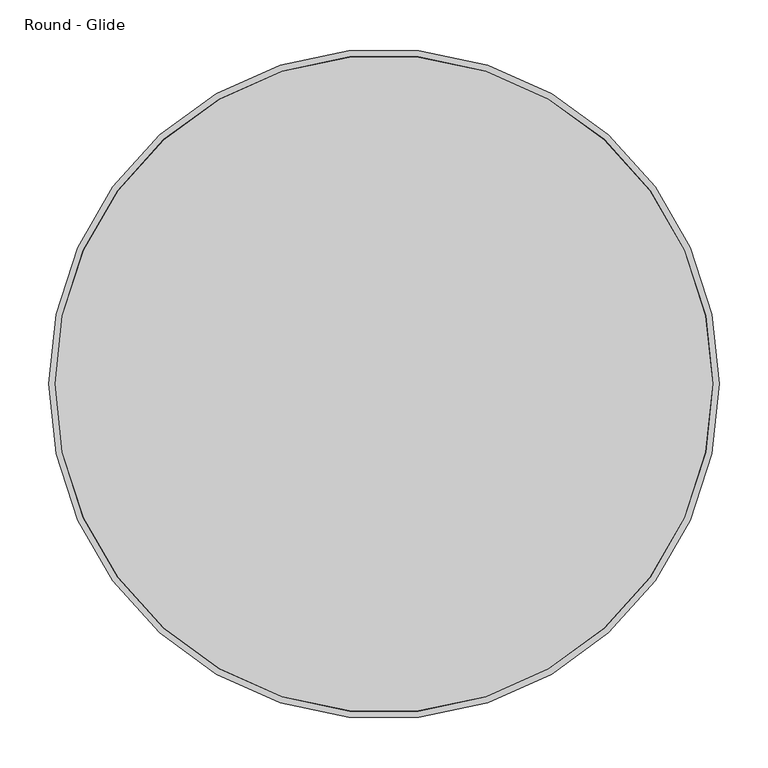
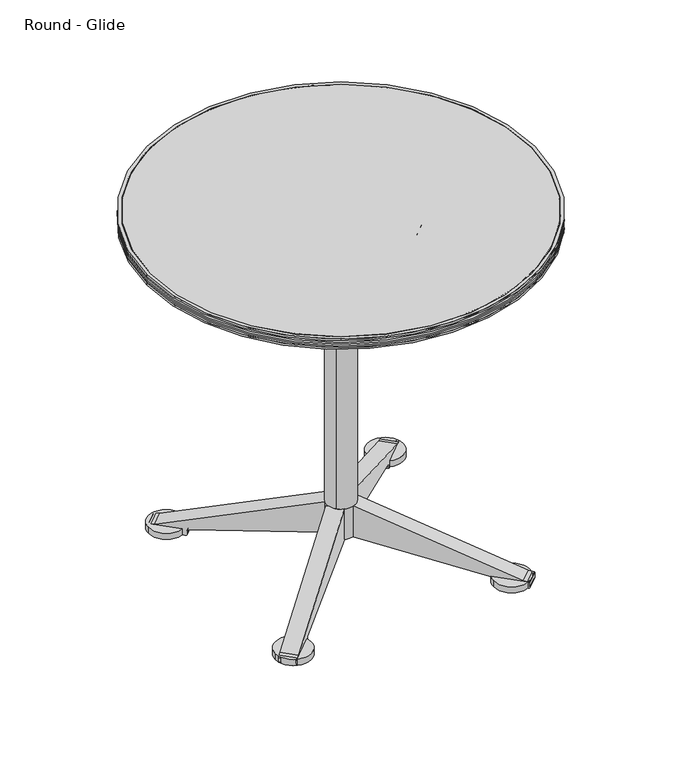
"""IFC4 building model written with IfcOpenShell, lengths in millimetres: furniture geometry, Coalesse_AM_Table_Conference_Ballet_Side : Round - Glide."""

from ifc_helpers import new_model, si_unit, point, frame, frame_2d, origin, origin_with_axes, origin_2d, place, context, project, spatial, polyline, circle_curve, trimmed, segment, composite_curve, outline, extrude, source, transform, mapped, element, save
from ifc_brep_helpers import plane_surface, cylinder_surface, revolved_surface, advanced_brep


def round_glide_2c95bece(model_context):
    return source(origin(), model_context, "Body", "SolidModel", [
        extrude(outline(composite_curve([segment(polyline([(-37.2834365, 26.9246599), (-26.8661847, 37.3419116)]), True, "CONTINUOUS"), segment(trimmed(circle_curve(frame_2d((0.0745836, 10.4011432)), 38.1), [point((-26.8661847, 37.3419116))], [point((27.015352, 37.3419116))], False, "CARTESIAN"), True, "CONTINUOUS"), segment(polyline([(27.015352, 37.3419116), (38.9313594, 25.4259042)]), True, "CONTINUOUS"), segment(trimmed(circle_curve(frame_2d((13.4893466, -0.0161085)), 35.9804395), [point((38.9313594, 25.4259042))], [point((38.9313594, -25.4581212))], False, "CARTESIAN"), True, "CONTINUOUS"), segment(polyline([(38.9313594, -25.4581212), (27.015352, -37.3741286)]), True, "CONTINUOUS"), segment(trimmed(circle_curve(frame_2d((0.0745836, -10.4333602)), 38.1), [point((27.015352, -37.3741286))], [point((-26.8661847, -37.3741286))], False, "CARTESIAN"), True, "CONTINUOUS"), segment(polyline([(-26.8661847, -37.3741286), (-37.2834365, -26.9568769)]), True, "CONTINUOUS"), segment(trimmed(circle_curve(frame_2d((-10.3426681, -0.0161085)), 38.1), [point((-37.2834365, -26.9568769))], [point((-37.2834365, 26.9246599))], False, "CARTESIAN"), True, "CONTINUOUS")], self_intersect=False)), frame((0.0, 0.0, 536.3169247), z_axis=(0.0, 0.0, 1.0), x_axis=(1.0, 0.0, 0.0)), (0.0, 0.0, 1.0), 50.3081696),
        extrude(outline(composite_curve([segment(polyline([(-81.1409418, 49.3084633), (-49.5692956, 80.8801095)]), True, "CONTINUOUS"), segment(trimmed(circle_curve(frame_2d((0.0, 156.1108358)), 90.0931587), [point((-49.5692956, 80.8801095))], [point((49.871233, 81.0799264))], True, "CARTESIAN"), True, "CONTINUOUS"), segment(polyline([(49.871233, 81.0799264), (81.1309866, 49.8201728)]), True, "CONTINUOUS"), segment(trimmed(circle_curve(frame_2d((153.3620811, 0.0)), 87.7461145), [point((81.1309866, 49.8201728))], [point((81.7629451, -50.7241989))], True, "CARTESIAN"), True, "CONTINUOUS"), segment(polyline([(81.7629451, -50.7241989), (50.5881651, -81.8989789)]), True, "CONTINUOUS"), segment(trimmed(circle_curve(frame_2d((0.0, -154.7295322)), 88.6761069), [point((50.5881651, -81.8989789))], [point((-51.0893198, -82.2496499))], True, "CARTESIAN"), True, "CONTINUOUS"), segment(polyline([(-51.0893198, -82.2496499), (-82.3248918, -51.014078)]), True, "CONTINUOUS"), segment(trimmed(circle_curve(frame_2d((-153.9959305, 0.0)), 87.9725749), [point((-82.3248918, -51.014078))], [point((-81.1409418, 49.3084633))], True, "CARTESIAN"), True, "CONTINUOUS")], self_intersect=False)), frame((0.0, 0.0, 563.948073), z_axis=(0.0, 0.0, 1.0), x_axis=(1.0, 0.0, 0.0)), (0.0, 0.0, 1.0), 22.6770213),
        extrude(outline(composite_curve([segment(polyline([(114.3, 0.0), (115.2263736, -5.2537258)]), True, "CONTINUOUS"), segment(trimmed(circle_curve(frame_2d((109.4080133, -6.2796597)), 5.9081179), [point((115.2263736, -5.2537258))], [point((112.3666622, -11.3935872))], False, "CARTESIAN"), True, "CONTINUOUS"), segment(trimmed(circle_curve(frame_2d((-123.1481635, 395.6860679)), 470.2989248), [point((112.3666622, -11.3935872))], [point((-41.1216208, -67.404339))], False, "CARTESIAN"), True, "CONTINUOUS"), segment(trimmed(circle_curve(frame_2d((-123.1481635, 395.6860679)), 470.2989248), [point((-41.1216208, -67.404339))], [point((-66.3652264, -71.172344))], False, "CARTESIAN"), True, "CONTINUOUS"), segment(trimmed(circle_curve(frame_2d((-64.5887584, -85.7781231)), 14.7134164), [point((-66.3652264, -71.172344))], [point((-76.9601862, -77.8136775))], True, "CARTESIAN"), True, "CONTINUOUS"), segment(trimmed(circle_curve(frame_2d((-64.5887584, -85.7781231)), 14.7134164), [point((-76.9601862, -77.8136775))], [point((-79.0764227, -88.3456516))], True, "CARTESIAN"), True, "CONTINUOUS"), segment(trimmed(circle_curve(frame_2d((-82.4829244, -88.9493576)), 3.4595829), [point((-79.0764227, -88.3456516))], [point((-81.6450497, -92.3059452))], False, "CARTESIAN"), True, "CONTINUOUS"), segment(polyline([(-81.6450497, -92.3059452), (-160.9573766, -92.3059452)]), True, "CONTINUOUS"), segment(trimmed(circle_curve(frame_2d((-160.119502, -88.9493576)), 3.4595829), [point((-160.9573766, -92.3059452))], [point((-163.5260036, -88.3456516))], False, "CARTESIAN"), True, "CONTINUOUS"), segment(trimmed(circle_curve(frame_2d((-178.0136679, -85.7781231)), 14.7134164), [point((-163.5260036, -88.3456516))], [point((-165.6422401, -77.8136775))], True, "CARTESIAN"), True, "CONTINUOUS"), segment(trimmed(circle_curve(frame_2d((-178.0136679, -85.7781231)), 14.7134164), [point((-165.6422401, -77.8136775))], [point((-176.2372, -71.172344))], True, "CARTESIAN"), True, "CONTINUOUS"), segment(trimmed(circle_curve(frame_2d((-119.4542628, 395.6860679)), 470.2989248), [point((-176.2372, -71.172344))], [point((-201.4808056, -67.404339))], False, "CARTESIAN"), True, "CONTINUOUS"), segment(trimmed(circle_curve(frame_2d((-119.4542628, 395.6860679)), 470.2989248), [point((-201.4808056, -67.404339))], [point((-354.9690885, -11.3935872))], False, "CARTESIAN"), True, "CONTINUOUS"), segment(trimmed(circle_curve(frame_2d((-352.0104397, -6.2796597)), 5.9081179), [point((-354.9690885, -11.3935872))], [point((-357.8288, -5.2537258))], False, "CARTESIAN"), True, "CONTINUOUS"), segment(polyline([(-357.8288, -5.2537258), (-356.9024264, 0.0), (-242.6024263, 0.0)]), True, "CONTINUOUS"), segment(trimmed(circle_curve(frame_2d((-184.587638, 17.529313)), 60.6052183), [point((-242.6024263, 0.0))], [point((-195.8254097, -42.0249058))], True, "CARTESIAN"), True, "CONTINUOUS"), segment(trimmed(circle_curve(frame_2d((-133.7603939, 286.8867003)), 334.7161645), [point((-195.8254097, -42.0249058))], [point((-152.4418907, -47.3077229))], True, "CARTESIAN"), True, "CONTINUOUS"), segment(trimmed(circle_curve(frame_2d((-151.7916573, -35.6756582)), 11.6502245), [point((-152.4418907, -47.3077229))], [point((-142.023608, -42.0249058))], True, "CARTESIAN"), True, "CONTINUOUS"), segment(polyline([(-142.023608, -42.0249058), (-100.5788184, -42.0249058)]), True, "CONTINUOUS"), segment(trimmed(circle_curve(frame_2d((-90.810769, -35.6756582)), 11.6502245), [point((-100.5788184, -42.0249058))], [point((-90.1605356, -47.3077229))], True, "CARTESIAN"), True, "CONTINUOUS"), segment(trimmed(circle_curve(frame_2d((-108.8420324, 286.8867003)), 334.7161645), [point((-90.1605356, -47.3077229))], [point((-46.7770167, -42.0249058))], True, "CARTESIAN"), True, "CONTINUOUS"), segment(trimmed(circle_curve(frame_2d((-58.0147883, 17.529313)), 60.6052183), [point((-46.7770167, -42.0249058))], [point((0.0, 0.0))], True, "CARTESIAN"), True, "CONTINUOUS"), segment(polyline([(0.0, 0.0), (114.3, 0.0)]), True, "CONTINUOUS")], self_intersect=False)), frame((-101.4283173, 70.1175035, 628.65), z_axis=(0.7071067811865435, 0.7071067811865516, 0.0), x_axis=(-0.7071067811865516, 0.7071067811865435, 0.0)), (0.0, 0.0, 1.0), 44.2801776),
        extrude(outline(composite_curve([segment(polyline([(114.3, 0.0), (115.2263736, -5.2537258)]), True, "CONTINUOUS"), segment(trimmed(circle_curve(frame_2d((109.4080133, -6.2796597)), 5.9081179), [point((115.2263736, -5.2537258))], [point((112.3666622, -11.3935872))], False, "CARTESIAN"), True, "CONTINUOUS"), segment(trimmed(circle_curve(frame_2d((-123.1481635, 395.6860679)), 470.2989248), [point((112.3666622, -11.3935872))], [point((-41.1216208, -67.404339))], False, "CARTESIAN"), True, "CONTINUOUS"), segment(trimmed(circle_curve(frame_2d((-123.1481635, 395.6860679)), 470.2989248), [point((-41.1216208, -67.404339))], [point((-66.3652264, -71.172344))], False, "CARTESIAN"), True, "CONTINUOUS"), segment(trimmed(circle_curve(frame_2d((-64.5887584, -85.7781231)), 14.7134164), [point((-66.3652264, -71.172344))], [point((-76.9601862, -77.8136775))], True, "CARTESIAN"), True, "CONTINUOUS"), segment(trimmed(circle_curve(frame_2d((-64.5887584, -85.7781231)), 14.7134164), [point((-76.9601862, -77.8136775))], [point((-79.0764227, -88.3456516))], True, "CARTESIAN"), True, "CONTINUOUS"), segment(trimmed(circle_curve(frame_2d((-82.4829244, -88.9493576)), 3.4595829), [point((-79.0764227, -88.3456516))], [point((-81.6450497, -92.3059452))], False, "CARTESIAN"), True, "CONTINUOUS"), segment(polyline([(-81.6450497, -92.3059452), (-160.9573766, -92.3059452)]), True, "CONTINUOUS"), segment(trimmed(circle_curve(frame_2d((-160.119502, -88.9493576)), 3.4595829), [point((-160.9573766, -92.3059452))], [point((-163.5260036, -88.3456516))], False, "CARTESIAN"), True, "CONTINUOUS"), segment(trimmed(circle_curve(frame_2d((-178.0136679, -85.7781231)), 14.7134164), [point((-163.5260036, -88.3456516))], [point((-165.6422401, -77.8136775))], True, "CARTESIAN"), True, "CONTINUOUS"), segment(trimmed(circle_curve(frame_2d((-178.0136679, -85.7781231)), 14.7134164), [point((-165.6422401, -77.8136775))], [point((-176.2372, -71.172344))], True, "CARTESIAN"), True, "CONTINUOUS"), segment(trimmed(circle_curve(frame_2d((-119.4542628, 395.6860679)), 470.2989248), [point((-176.2372, -71.172344))], [point((-201.4808056, -67.404339))], False, "CARTESIAN"), True, "CONTINUOUS"), segment(trimmed(circle_curve(frame_2d((-119.4542628, 395.6860679)), 470.2989248), [point((-201.4808056, -67.404339))], [point((-354.9690885, -11.3935872))], False, "CARTESIAN"), True, "CONTINUOUS"), segment(trimmed(circle_curve(frame_2d((-352.0104397, -6.2796597)), 5.9081179), [point((-354.9690885, -11.3935872))], [point((-357.8288, -5.2537258))], False, "CARTESIAN"), True, "CONTINUOUS"), segment(polyline([(-357.8288, -5.2537258), (-356.9024264, 0.0), (-242.6024263, 0.0)]), True, "CONTINUOUS"), segment(trimmed(circle_curve(frame_2d((-184.587638, 17.529313)), 60.6052183), [point((-242.6024263, 0.0))], [point((-195.8254097, -42.0249058))], True, "CARTESIAN"), True, "CONTINUOUS"), segment(trimmed(circle_curve(frame_2d((-133.7603939, 286.8867003)), 334.7161645), [point((-195.8254097, -42.0249058))], [point((-152.4418907, -47.3077229))], True, "CARTESIAN"), True, "CONTINUOUS"), segment(trimmed(circle_curve(frame_2d((-151.7916573, -35.6756582)), 11.6502245), [point((-152.4418907, -47.3077229))], [point((-142.023608, -42.0249058))], True, "CARTESIAN"), True, "CONTINUOUS"), segment(polyline([(-142.023608, -42.0249058), (-100.5788184, -42.0249058)]), True, "CONTINUOUS"), segment(trimmed(circle_curve(frame_2d((-90.810769, -35.6756582)), 11.6502245), [point((-100.5788184, -42.0249058))], [point((-90.1605356, -47.3077229))], True, "CARTESIAN"), True, "CONTINUOUS"), segment(trimmed(circle_curve(frame_2d((-108.8420324, 286.8867003)), 334.7161645), [point((-90.1605356, -47.3077229))], [point((-46.7770167, -42.0249058))], True, "CARTESIAN"), True, "CONTINUOUS"), segment(trimmed(circle_curve(frame_2d((-58.0147883, 17.529313)), 60.6052183), [point((-46.7770167, -42.0249058))], [point((0.0, 0.0))], True, "CARTESIAN"), True, "CONTINUOUS"), segment(polyline([(0.0, 0.0), (114.3, 0.0)]), True, "CONTINUOUS")], self_intersect=False)), frame((-70.1175035, -101.4283173, 628.65), z_axis=(-0.7071067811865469, 0.7071067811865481, 0.0), x_axis=(-0.7071067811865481, -0.7071067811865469, 0.0)), (0.0, 0.0, 1.0), 44.2801776),
        extrude(outline(composite_curve([segment(trimmed(circle_curve(frame_2d((-194.715793, 197.3207687)), 31.75), [point((-226.465793, 197.3207687))], [point((-162.965793, 197.3207687))], False, "CARTESIAN"), True, "CONTINUOUS"), segment(trimmed(circle_curve(frame_2d((-194.715793, 197.3207687)), 31.75), [point((-162.965793, 197.3207687))], [point((-226.465793, 197.3207687))], False, "CARTESIAN"), True, "CONTINUOUS")], self_intersect=False)), frame((0.0, 0.0, 4.2904479), z_axis=(0.0, 0.0, 1.0), x_axis=(1.0, 0.0, 0.0)), (0.0, 0.0, 1.0), 11.3833531),
        extrude(outline(composite_curve([segment(trimmed(circle_curve(frame_2d((191.7194605, 196.5270187)), 31.75), [point((159.9694605, 196.5270187))], [point((223.4694605, 196.5270187))], False, "CARTESIAN"), True, "CONTINUOUS"), segment(trimmed(circle_curve(frame_2d((191.7194605, 196.5270187)), 31.75), [point((223.4694605, 196.5270187))], [point((159.9694605, 196.5270187))], False, "CARTESIAN"), True, "CONTINUOUS")], self_intersect=False)), frame((0.0, 0.0, 4.2904479), z_axis=(0.0, 0.0, 1.0), x_axis=(1.0, 0.0, 0.0)), (0.0, 0.0, 1.0), 11.3833531),
        extrude(outline(composite_curve([segment(trimmed(circle_curve(frame_2d((-194.715793, -191.2787692)), 31.75), [point((-226.465793, -191.2787692))], [point((-162.965793, -191.2787692))], False, "CARTESIAN"), True, "CONTINUOUS"), segment(trimmed(circle_curve(frame_2d((-194.715793, -191.2787692)), 31.75), [point((-162.965793, -191.2787692))], [point((-226.465793, -191.2787692))], False, "CARTESIAN"), True, "CONTINUOUS")], self_intersect=False)), frame((0.0, 0.0, 4.2904479), z_axis=(0.0, 0.0, 1.0), x_axis=(1.0, 0.0, 0.0)), (0.0, 0.0, 1.0), 11.3833531),
        extrude(outline(composite_curve([segment(trimmed(circle_curve(frame_2d((191.7194605, -190.4850192)), 31.75), [point((159.9694605, -190.4850192))], [point((223.4694605, -190.4850192))], False, "CARTESIAN"), True, "CONTINUOUS"), segment(trimmed(circle_curve(frame_2d((191.7194605, -190.4850192)), 31.75), [point((223.4694605, -190.4850192))], [point((159.9694605, -190.4850192))], False, "CARTESIAN"), True, "CONTINUOUS")], self_intersect=False)), frame((0.0, 0.0, 4.2904479), z_axis=(0.0, 0.0, 1.0), x_axis=(1.0, 0.0, 0.0)), (0.0, 0.0, 1.0), 11.3833531),
        extrude(outline(composite_curve([segment(polyline([(-57.749273, 0.0), (0.0, 0.0), (-90.9931074, -269.8641919), (-92.3030079, -279.1846177)]), True, "CONTINUOUS"), segment(trimmed(circle_curve(frame_2d((-93.9206951, -278.9572666)), 1.6335852), [point((-92.3030079, -279.1846177))], [point((-93.8206014, -280.5877823))], False, "CARTESIAN"), True, "CONTINUOUS"), segment(trimmed(circle_curve(frame_2d((-95.8523928, -247.4901147)), 33.1599725), [point((-93.8206014, -280.5877823))], [point((-101.682402, -280.1335639))], False, "CARTESIAN"), True, "CONTINUOUS"), segment(trimmed(circle_curve(frame_2d((-101.2796868, -277.8786768)), 2.2905666), [point((-101.682402, -280.1335639))], [point((-103.5674671, -277.7657306))], False, "CARTESIAN"), True, "CONTINUOUS"), segment(polyline([(-103.5674671, -277.7657306), (-103.5674671, -222.4322812)]), True, "CONTINUOUS"), segment(trimmed(circle_curve(frame_2d((-100.6154331, -221.9840334)), 2.9858719), [point((-103.5674671, -222.4322812))], [point((-100.2998684, -219.0148838))], False, "CARTESIAN"), True, "CONTINUOUS"), segment(trimmed(circle_curve(frame_2d((-98.3053249, -200.2482144)), 18.872363), [point((-100.2998684, -219.0148838))], [point((-94.5016021, -218.7332835))], True, "CARTESIAN"), True, "CONTINUOUS"), segment(trimmed(circle_curve(frame_2d((-95.1495986, -215.5841949)), 3.2150673), [point((-94.5016021, -218.7332835))], [point((-91.9741141, -216.0871422))], True, "CARTESIAN"), True, "CONTINUOUS"), segment(polyline([(-91.9741141, -216.0871422), (-57.749273, 0.0)]), True, "CONTINUOUS")], self_intersect=False)), frame((-23.5273141, 7.7834997, 107.857915), z_axis=(0.7071067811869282, 0.707106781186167, 0.0), x_axis=(0.0, 0.0, 1.0)), (0.0, 0.0, 1.0), 29.2174476),
        extrude(outline(composite_curve([segment(polyline([(-57.749273, 44.2801775), (-91.9741141, 260.3673198)]), True, "CONTINUOUS"), segment(trimmed(circle_curve(frame_2d((-95.1495986, 259.8643724)), 3.2150673), [point((-91.9741141, 260.3673198))], [point((-94.5016021, 263.013461))], True, "CARTESIAN"), True, "CONTINUOUS"), segment(trimmed(circle_curve(frame_2d((-98.3053249, 244.5283919)), 18.872363), [point((-94.5016021, 263.013461))], [point((-100.2998684, 263.2950613))], True, "CARTESIAN"), True, "CONTINUOUS"), segment(trimmed(circle_curve(frame_2d((-100.6154331, 266.2642109)), 2.9858719), [point((-100.2998684, 263.2950613))], [point((-103.5674671, 266.7124587))], False, "CARTESIAN"), True, "CONTINUOUS"), segment(polyline([(-103.5674671, 266.7124587), (-103.5674671, 322.0459081)]), True, "CONTINUOUS"), segment(trimmed(circle_curve(frame_2d((-101.2796868, 322.1588543)), 2.2905666), [point((-103.5674671, 322.0459081))], [point((-101.682402, 324.4137415))], False, "CARTESIAN"), True, "CONTINUOUS"), segment(trimmed(circle_curve(frame_2d((-95.8523928, 291.7702923)), 33.1599725), [point((-101.682402, 324.4137415))], [point((-93.8206014, 324.8679598))], False, "CARTESIAN"), True, "CONTINUOUS"), segment(trimmed(circle_curve(frame_2d((-93.9206951, 323.2374442)), 1.6335852), [point((-93.8206014, 324.8679598))], [point((-92.3030079, 323.4647953))], False, "CARTESIAN"), True, "CONTINUOUS"), segment(polyline([(-92.3030079, 323.4647953), (-90.9931074, 314.1443694), (0.0, 44.2801775), (-57.749273, 44.2801775)]), True, "CONTINUOUS")], self_intersect=False)), frame((-23.5273141, 7.7834997, 107.857915), z_axis=(0.7071067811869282, 0.707106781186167, 0.0), x_axis=(0.0, 0.0, 1.0)), (0.0, 0.0, 1.0), 29.2174476),
        extrude(outline(composite_curve([segment(polyline([(-57.749273, 0.0), (0.0, 0.0), (-90.9931074, -269.8641919), (-92.3030079, -279.1846177)]), True, "CONTINUOUS"), segment(trimmed(circle_curve(frame_2d((-93.9206951, -278.9572666)), 1.6335852), [point((-92.3030079, -279.1846177))], [point((-93.8206014, -280.5877823))], False, "CARTESIAN"), True, "CONTINUOUS"), segment(trimmed(circle_curve(frame_2d((-95.8523928, -247.4901147)), 33.1599725), [point((-93.8206014, -280.5877823))], [point((-101.682402, -280.1335639))], False, "CARTESIAN"), True, "CONTINUOUS"), segment(trimmed(circle_curve(frame_2d((-101.2796868, -277.8786768)), 2.2905666), [point((-101.682402, -280.1335639))], [point((-103.5674671, -277.7657306))], False, "CARTESIAN"), True, "CONTINUOUS"), segment(polyline([(-103.5674671, -277.7657306), (-103.5674671, -222.4322812)]), True, "CONTINUOUS"), segment(trimmed(circle_curve(frame_2d((-100.6154331, -221.9840334)), 2.9858719), [point((-103.5674671, -222.4322812))], [point((-100.2998684, -219.0148838))], False, "CARTESIAN"), True, "CONTINUOUS"), segment(trimmed(circle_curve(frame_2d((-98.3053249, -200.2482144)), 18.872363), [point((-100.2998684, -219.0148838))], [point((-94.5016021, -218.7332835))], True, "CARTESIAN"), True, "CONTINUOUS"), segment(trimmed(circle_curve(frame_2d((-95.1495986, -215.5841949)), 3.2150673), [point((-94.5016021, -218.7332835))], [point((-91.9741141, -216.0871422))], True, "CARTESIAN"), True, "CONTINUOUS"), segment(polyline([(-91.9741141, -216.0871422), (-57.749273, 0.0)]), True, "CONTINUOUS")], self_intersect=False)), frame((-7.7834997, -23.5273141, 107.857915), z_axis=(-0.7071067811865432, 0.7071067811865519, 0.0), x_axis=(0.0, 0.0, 1.0)), (0.0, 0.0, 1.0), 29.2174476),
        extrude(outline(composite_curve([segment(polyline([(-57.749273, 44.2801775), (-91.9741141, 260.3673198)]), True, "CONTINUOUS"), segment(trimmed(circle_curve(frame_2d((-95.1495986, 259.8643724)), 3.2150673), [point((-91.9741141, 260.3673198))], [point((-94.5016021, 263.013461))], True, "CARTESIAN"), True, "CONTINUOUS"), segment(trimmed(circle_curve(frame_2d((-98.3053249, 244.5283919)), 18.872363), [point((-94.5016021, 263.013461))], [point((-100.2998684, 263.2950613))], True, "CARTESIAN"), True, "CONTINUOUS"), segment(trimmed(circle_curve(frame_2d((-100.6154331, 266.2642109)), 2.9858719), [point((-100.2998684, 263.2950613))], [point((-103.5674671, 266.7124587))], False, "CARTESIAN"), True, "CONTINUOUS"), segment(polyline([(-103.5674671, 266.7124587), (-103.5674671, 322.0459081)]), True, "CONTINUOUS"), segment(trimmed(circle_curve(frame_2d((-101.2796868, 322.1588543)), 2.2905666), [point((-103.5674671, 322.0459081))], [point((-101.682402, 324.4137415))], False, "CARTESIAN"), True, "CONTINUOUS"), segment(trimmed(circle_curve(frame_2d((-95.8523928, 291.7702923)), 33.1599725), [point((-101.682402, 324.4137415))], [point((-93.8206014, 324.8679598))], False, "CARTESIAN"), True, "CONTINUOUS"), segment(trimmed(circle_curve(frame_2d((-93.9206951, 323.2374442)), 1.6335852), [point((-93.8206014, 324.8679598))], [point((-92.3030079, 323.4647953))], False, "CARTESIAN"), True, "CONTINUOUS"), segment(polyline([(-92.3030079, 323.4647953), (-90.9931074, 314.1443694), (0.0, 44.2801775), (-57.749273, 44.2801775)]), True, "CONTINUOUS")], self_intersect=False)), frame((-7.7834997, -23.5273141, 107.857915), z_axis=(-0.7071067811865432, 0.7071067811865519, 0.0), x_axis=(0.0, 0.0, 1.0)), (0.0, 0.0, 1.0), 29.2174476),
        extrude(outline(composite_curve([segment(polyline([(-57.749273, 0.0), (0.0, 0.0), (-90.9931074, -269.8641919), (-92.3030079, -279.1846177)]), True, "CONTINUOUS"), segment(trimmed(circle_curve(frame_2d((-93.9206951, -278.9572666)), 1.6335852), [point((-92.3030079, -279.1846177))], [point((-93.8206014, -280.5877823))], False, "CARTESIAN"), True, "CONTINUOUS"), segment(trimmed(circle_curve(frame_2d((-95.8523928, -247.4901147)), 33.1599725), [point((-93.8206014, -280.5877823))], [point((-101.682402, -280.1335639))], False, "CARTESIAN"), True, "CONTINUOUS"), segment(trimmed(circle_curve(frame_2d((-101.2796868, -277.8786768)), 2.2905666), [point((-101.682402, -280.1335639))], [point((-103.5674671, -277.7657306))], False, "CARTESIAN"), True, "CONTINUOUS"), segment(polyline([(-103.5674671, -277.7657306), (-103.5674671, -222.4322812)]), True, "CONTINUOUS"), segment(trimmed(circle_curve(frame_2d((-100.6154331, -221.9840334)), 2.9858719), [point((-103.5674671, -222.4322812))], [point((-100.2998684, -219.0148838))], False, "CARTESIAN"), True, "CONTINUOUS"), segment(trimmed(circle_curve(frame_2d((-98.3053249, -200.2482144)), 18.872363), [point((-100.2998684, -219.0148838))], [point((-94.5016021, -218.7332835))], True, "CARTESIAN"), True, "CONTINUOUS"), segment(trimmed(circle_curve(frame_2d((-95.1495986, -215.5841949)), 3.2150673), [point((-94.5016021, -218.7332835))], [point((-91.9741141, -216.0871422))], True, "CARTESIAN"), True, "CONTINUOUS"), segment(polyline([(-91.9741141, -216.0871422), (-57.749273, 0.0)]), True, "CONTINUOUS")], self_intersect=False)), frame((-23.5273141, 7.7834997, 107.857915), z_axis=(0.7071067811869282, 0.707106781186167, 0.0), x_axis=(0.0, 0.0, 1.0)), (0.0, 0.0, 1.0), 29.2174476),
        extrude(outline(composite_curve([segment(polyline([(-57.749273, 44.2801775), (-91.9741141, 260.3673198)]), True, "CONTINUOUS"), segment(trimmed(circle_curve(frame_2d((-95.1495986, 259.8643724)), 3.2150673), [point((-91.9741141, 260.3673198))], [point((-94.5016021, 263.013461))], True, "CARTESIAN"), True, "CONTINUOUS"), segment(trimmed(circle_curve(frame_2d((-98.3053249, 244.5283919)), 18.872363), [point((-94.5016021, 263.013461))], [point((-100.2998684, 263.2950613))], True, "CARTESIAN"), True, "CONTINUOUS"), segment(trimmed(circle_curve(frame_2d((-100.6154331, 266.2642109)), 2.9858719), [point((-100.2998684, 263.2950613))], [point((-103.5674671, 266.7124587))], False, "CARTESIAN"), True, "CONTINUOUS"), segment(polyline([(-103.5674671, 266.7124587), (-103.5674671, 322.0459081)]), True, "CONTINUOUS"), segment(trimmed(circle_curve(frame_2d((-101.2796868, 322.1588543)), 2.2905666), [point((-103.5674671, 322.0459081))], [point((-101.682402, 324.4137415))], False, "CARTESIAN"), True, "CONTINUOUS"), segment(trimmed(circle_curve(frame_2d((-95.8523928, 291.7702923)), 33.1599725), [point((-101.682402, 324.4137415))], [point((-93.8206014, 324.8679598))], False, "CARTESIAN"), True, "CONTINUOUS"), segment(trimmed(circle_curve(frame_2d((-93.9206951, 323.2374442)), 1.6335852), [point((-93.8206014, 324.8679598))], [point((-92.3030079, 323.4647953))], False, "CARTESIAN"), True, "CONTINUOUS"), segment(polyline([(-92.3030079, 323.4647953), (-90.9931074, 314.1443694), (0.0, 44.2801775), (-57.749273, 44.2801775)]), True, "CONTINUOUS")], self_intersect=False)), frame((-23.5273141, 7.7834997, 107.857915), z_axis=(0.7071067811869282, 0.707106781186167, 0.0), x_axis=(0.0, 0.0, 1.0)), (0.0, 0.0, 1.0), 29.2174476),
        extrude(outline(composite_curve([segment(polyline([(-57.749273, 0.0), (0.0, 0.0), (-90.9931074, -269.8641919), (-92.3030079, -279.1846177)]), True, "CONTINUOUS"), segment(trimmed(circle_curve(frame_2d((-93.9206951, -278.9572666)), 1.6335852), [point((-92.3030079, -279.1846177))], [point((-93.8206014, -280.5877823))], False, "CARTESIAN"), True, "CONTINUOUS"), segment(trimmed(circle_curve(frame_2d((-95.8523928, -247.4901147)), 33.1599725), [point((-93.8206014, -280.5877823))], [point((-101.682402, -280.1335639))], False, "CARTESIAN"), True, "CONTINUOUS"), segment(trimmed(circle_curve(frame_2d((-101.2796868, -277.8786768)), 2.2905666), [point((-101.682402, -280.1335639))], [point((-103.5674671, -277.7657306))], False, "CARTESIAN"), True, "CONTINUOUS"), segment(polyline([(-103.5674671, -277.7657306), (-103.5674671, -222.4322812)]), True, "CONTINUOUS"), segment(trimmed(circle_curve(frame_2d((-100.6154331, -221.9840334)), 2.9858719), [point((-103.5674671, -222.4322812))], [point((-100.2998684, -219.0148838))], False, "CARTESIAN"), True, "CONTINUOUS"), segment(trimmed(circle_curve(frame_2d((-98.3053249, -200.2482144)), 18.872363), [point((-100.2998684, -219.0148838))], [point((-94.5016021, -218.7332835))], True, "CARTESIAN"), True, "CONTINUOUS"), segment(trimmed(circle_curve(frame_2d((-95.1495986, -215.5841949)), 3.2150673), [point((-94.5016021, -218.7332835))], [point((-91.9741141, -216.0871422))], True, "CARTESIAN"), True, "CONTINUOUS"), segment(polyline([(-91.9741141, -216.0871422), (-57.749273, 0.0)]), True, "CONTINUOUS")], self_intersect=False)), frame((-7.7834997, -23.5273141, 107.857915), z_axis=(-0.7071067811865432, 0.7071067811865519, 0.0), x_axis=(0.0, 0.0, 1.0)), (0.0, 0.0, 1.0), 29.2174476),
        extrude(outline(composite_curve([segment(polyline([(-57.749273, 44.2801775), (-91.9741141, 260.3673198)]), True, "CONTINUOUS"), segment(trimmed(circle_curve(frame_2d((-95.1495986, 259.8643724)), 3.2150673), [point((-91.9741141, 260.3673198))], [point((-94.5016021, 263.013461))], True, "CARTESIAN"), True, "CONTINUOUS"), segment(trimmed(circle_curve(frame_2d((-98.3053249, 244.5283919)), 18.872363), [point((-94.5016021, 263.013461))], [point((-100.2998684, 263.2950613))], True, "CARTESIAN"), True, "CONTINUOUS"), segment(trimmed(circle_curve(frame_2d((-100.6154331, 266.2642109)), 2.9858719), [point((-100.2998684, 263.2950613))], [point((-103.5674671, 266.7124587))], False, "CARTESIAN"), True, "CONTINUOUS"), segment(polyline([(-103.5674671, 266.7124587), (-103.5674671, 322.0459081)]), True, "CONTINUOUS"), segment(trimmed(circle_curve(frame_2d((-101.2796868, 322.1588543)), 2.2905666), [point((-103.5674671, 322.0459081))], [point((-101.682402, 324.4137415))], False, "CARTESIAN"), True, "CONTINUOUS"), segment(trimmed(circle_curve(frame_2d((-95.8523928, 291.7702923)), 33.1599725), [point((-101.682402, 324.4137415))], [point((-93.8206014, 324.8679598))], False, "CARTESIAN"), True, "CONTINUOUS"), segment(trimmed(circle_curve(frame_2d((-93.9206951, 323.2374442)), 1.6335852), [point((-93.8206014, 324.8679598))], [point((-92.3030079, 323.4647953))], False, "CARTESIAN"), True, "CONTINUOUS"), segment(polyline([(-92.3030079, 323.4647953), (-90.9931074, 314.1443694), (0.0, 44.2801775), (-57.749273, 44.2801775)]), True, "CONTINUOUS")], self_intersect=False)), frame((-7.7834997, -23.5273141, 107.857915), z_axis=(-0.7071067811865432, 0.7071067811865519, 0.0), x_axis=(0.0, 0.0, 1.0)), (0.0, 0.0, 1.0), 29.2174476),
        extrude(outline(composite_curve([segment(trimmed(circle_curve(frame_2d((1.04e-05, -1.04e-05)), 25.3999999), [point((-17.9605018, -17.9605225))], [point((17.9605225, 17.9605018))], False, "CARTESIAN"), True, "CONTINUOUS"), segment(trimmed(circle_curve(frame_2d((1.04e-05, -1.04e-05)), 25.3999999), [point((17.9605225, 17.9605018))], [point((-17.9605018, -17.9605225))], False, "CARTESIAN"), True, "CONTINUOUS")], self_intersect=False)), frame((0.0, 0.0, 107.857915), z_axis=(0.0, 0.0, 1.0), x_axis=(1.0, 0.0, 0.0)), (0.0, 0.0, 1.0), 428.4590096),
        extrude(outline(composite_curve([segment(trimmed(circle_curve(frame_2d((192.2336051, -190.6461051)), 25.4), [point((174.2730929, -208.6066174))], [point((210.1941174, -172.6855929))], False, "CARTESIAN"), True, "CONTINUOUS"), segment(trimmed(circle_curve(frame_2d((192.2336051, -190.6461051)), 25.4), [point((210.1941174, -172.6855929))], [point((174.2730929, -208.6066174))], False, "CARTESIAN"), True, "CONTINUOUS")], self_intersect=False)), origin_with_axes(), (0.0, 0.0, 1.0), 4.2904479),
        extrude(outline(composite_curve([segment(trimmed(circle_curve(frame_2d((192.2336051, 196.9961051)), 25.4), [point((174.2730929, 179.0355929))], [point((210.1941174, 214.9566174))], False, "CARTESIAN"), True, "CONTINUOUS"), segment(trimmed(circle_curve(frame_2d((192.2336051, 196.9961051)), 25.4), [point((210.1941174, 214.9566174))], [point((174.2730929, 179.0355929))], False, "CARTESIAN"), True, "CONTINUOUS")], self_intersect=False)), origin_with_axes(), (0.0, 0.0, 1.0), 4.2904479),
        extrude(outline(composite_curve([segment(trimmed(circle_curve(frame_2d((-194.6148551, -191.4398551)), 25.4), [point((-212.5753674, -209.4003674))], [point((-176.6543429, -173.4793429))], False, "CARTESIAN"), True, "CONTINUOUS"), segment(trimmed(circle_curve(frame_2d((-194.6148551, -191.4398551)), 25.4), [point((-176.6543429, -173.4793429))], [point((-212.5753674, -209.4003674))], False, "CARTESIAN"), True, "CONTINUOUS")], self_intersect=False)), origin_with_axes(), (0.0, 0.0, 1.0), 4.2904479),
        extrude(outline(composite_curve([segment(trimmed(circle_curve(frame_2d((-194.2179801, 197.3929801)), 25.4), [point((-212.1784924, 179.4324679))], [point((-176.2574679, 215.3534924))], False, "CARTESIAN"), True, "CONTINUOUS"), segment(trimmed(circle_curve(frame_2d((-194.2179801, 197.3929801)), 25.4), [point((-176.2574679, 215.3534924))], [point((-212.1784924, 179.4324679))], False, "CARTESIAN"), True, "CONTINUOUS")], self_intersect=False)), origin_with_axes(), (0.0, 0.0, 1.0), 4.2904479),
        extrude(outline(composite_curve([segment(trimmed(circle_curve(frame_2d((1.04e-05, -1.04e-05)), 25.3999999), [point((-17.9605018, -17.9605225))], [point((17.9605225, 17.9605018))], False, "CARTESIAN"), True, "CONTINUOUS"), segment(trimmed(circle_curve(frame_2d((1.04e-05, -1.04e-05)), 25.3999999), [point((17.9605225, 17.9605018))], [point((-17.9605018, -17.9605225))], False, "CARTESIAN"), True, "CONTINUOUS")], self_intersect=False)), frame((0.0, 0.0, 50.8000015), z_axis=(0.0, 0.0, 1.0), x_axis=(1.0, 0.0, 0.0)), (0.0, 0.0, 1.0), 485.5169232),
        advanced_brep(
        [(343.0539501, 0.0, 631.8220658), (-343.0539501, 0.0, 631.8220658), (-343.0539501, 0.0, 628.65), (343.0539501, 0.0, 628.65), (339.8911929, 0.0, 633.4335711), (-339.8911929, 0.0, 633.4335711), (343.014825, 0.0, 634.9903832), (-343.014825, 0.0, 634.9903832), (339.8527767, 0.0, 636.574009), (-339.8527767, 0.0, 636.574009), (343.0576229, 0.0, 638.171298), (-343.0576229, 0.0, 638.171298), (339.8781704, 0.0, 639.7636402), (-339.8781704, 0.0, 639.7636402), (343.0552247, 0.0, 641.3470778), (-343.0552247, 0.0, 641.3470778), (339.8975552, 0.0, 642.9214998), (-339.8975552, 0.0, 642.9214998), (343.0644546, 0.0, 644.5351157), (-343.0644546, 0.0, 644.5351157), (343.0644546, 0.0, 647.7), (-343.0644546, 0.0, 647.7), (336.7392593, 0.0, 628.65), (-336.7392593, 0.0, 628.65), (-336.7392593, 0.0, 647.7), (336.7392593, 0.0, 647.7)],
        [
            (0, 1, circle_curve(frame((0.0, 0.0, 631.8220658), z_axis=(0.0, 0.0, -1.0), x_axis=(-1.0, 0.0, 0.0)), 343.0539501)),
            (1, 2),
            (2, 3, circle_curve(frame((0.0, 0.0, 628.65), z_axis=(0.0, 0.0, 1.0), x_axis=(-1.0, 0.0, 0.0)), 343.0539501)),
            (3, 0),
            (4, 5, circle_curve(frame((0.0, 0.0, 633.4335711), z_axis=(0.0, 0.0, -1.0), x_axis=(-1.0, 0.0, 0.0)), 339.8911929)),
            (5, 1),
            (0, 4),
            (6, 7, circle_curve(frame((0.0, 0.0, 634.9903832), z_axis=(0.0, 0.0, -1.0), x_axis=(-1.0, 0.0, 0.0)), 343.014825)),
            (7, 5),
            (4, 6),
            (8, 9, circle_curve(frame((0.0, 0.0, 636.574009), z_axis=(0.0, 0.0, -1.0), x_axis=(-1.0, 0.0, 0.0)), 339.8527767)),
            (9, 7),
            (6, 8),
            (10, 11, circle_curve(frame((0.0, 0.0, 638.171298), z_axis=(0.0, 0.0, -1.0), x_axis=(-1.0, 0.0, 0.0)), 343.0576229)),
            (11, 9),
            (8, 10),
            (12, 13, circle_curve(frame((0.0, 0.0, 639.7636402), z_axis=(0.0, 0.0, -1.0), x_axis=(-1.0, 0.0, 0.0)), 339.8781704)),
            (13, 11),
            (10, 12),
            (14, 15, circle_curve(frame((0.0, 0.0, 641.3470778), z_axis=(0.0, 0.0, -1.0), x_axis=(-1.0, 0.0, 0.0)), 343.0552247)),
            (15, 13),
            (12, 14),
            (16, 17, circle_curve(frame((0.0, 0.0, 642.9214998), z_axis=(0.0, 0.0, -1.0), x_axis=(-1.0, 0.0, 0.0)), 339.8975552)),
            (17, 15),
            (14, 16),
            (18, 19, circle_curve(frame((0.0, 0.0, 644.5351157), z_axis=(0.0, 0.0, -1.0), x_axis=(-1.0, 0.0, 0.0)), 343.0644546)),
            (19, 17),
            (16, 18),
            (20, 21, circle_curve(frame((0.0, 0.0, 647.7), z_axis=(0.0, 0.0, -1.0), x_axis=(-1.0, 0.0, 0.0)), 343.0644546)),
            (21, 19),
            (18, 20),
            (22, 23, circle_curve(frame((0.0, 0.0, 628.65), z_axis=(0.0, 0.0, -1.0), x_axis=(-1.0, 0.0, 0.0)), 336.7392593)),
            (23, 24),
            (24, 25, circle_curve(frame((0.0, 0.0, 647.7), z_axis=(0.0, 0.0, 1.0), x_axis=(-1.0, 0.0, 0.0)), 336.7392593)),
            (25, 22),
            (2, 3, circle_curve(frame((0.0, 0.0, 628.65), z_axis=(0.0, 0.0, -1.0), x_axis=(1.0, 0.0, 0.0)), 343.0539501)),
            (22, 23, circle_curve(frame((0.0, 0.0, 628.65), z_axis=(0.0, 0.0, 1.0), x_axis=(1.0, 0.0, 0.0)), 336.7392593)),
            (1, 0, circle_curve(frame((0.0, 0.0, 631.8220658), z_axis=(0.0, 0.0, -1.0), x_axis=(1.0, 0.0, 0.0)), 343.0539501)),
            (5, 4, circle_curve(frame((0.0, 0.0, 633.4335711), z_axis=(0.0, 0.0, -1.0), x_axis=(1.0, 0.0, 0.0)), 339.8911929)),
            (7, 6, circle_curve(frame((0.0, 0.0, 634.9903832), z_axis=(0.0, 0.0, -1.0), x_axis=(1.0, 0.0, 0.0)), 343.014825)),
            (9, 8, circle_curve(frame((0.0, 0.0, 636.574009), z_axis=(0.0, 0.0, -1.0), x_axis=(1.0, 0.0, 0.0)), 339.8527767)),
            (11, 10, circle_curve(frame((0.0, 0.0, 638.171298), z_axis=(0.0, 0.0, -1.0), x_axis=(1.0, 0.0, 0.0)), 343.0576229)),
            (13, 12, circle_curve(frame((0.0, 0.0, 639.7636402), z_axis=(0.0, 0.0, -1.0), x_axis=(1.0, 0.0, 0.0)), 339.8781704)),
            (15, 14, circle_curve(frame((0.0, 0.0, 641.3470778), z_axis=(0.0, 0.0, -1.0), x_axis=(1.0, 0.0, 0.0)), 343.0552247)),
            (17, 16, circle_curve(frame((0.0, 0.0, 642.9214998), z_axis=(0.0, 0.0, -1.0), x_axis=(1.0, 0.0, 0.0)), 339.8975552)),
            (19, 18, circle_curve(frame((0.0, 0.0, 644.5351157), z_axis=(0.0, 0.0, -1.0), x_axis=(1.0, 0.0, 0.0)), 343.0644546)),
            (21, 20, circle_curve(frame((0.0, 0.0, 647.7), z_axis=(0.0, 0.0, -1.0), x_axis=(1.0, 0.0, 0.0)), 343.0644546)),
            (24, 25, circle_curve(frame((0.0, 0.0, 647.7), z_axis=(0.0, 0.0, -1.0), x_axis=(1.0, 0.0, 0.0)), 336.7392593)),
        ],
        [
            cylinder_surface(frame((0.0, 0.0, 0.0), z_axis=(0.0, 0.0, 1.0), x_axis=(-1.0, 0.0, 0.0)), 343.0539501),
            revolved_surface(polyline([(-343.0539501, 0.0, 631.8220658), (-339.8911929, 0.0, 633.4335711)]), (0.0, 0.0, 0.0), (0.0, 0.0, 1.0)),
            revolved_surface(polyline([(-339.8911929, 0.0, 633.4335711), (-343.014825, 0.0, 634.9903832)]), (0.0, 0.0, 0.0), (0.0, 0.0, 1.0)),
            revolved_surface(polyline([(-343.014825, 0.0, 634.9903832), (-339.8527767, 0.0, 636.574009)]), (0.0, 0.0, 0.0), (0.0, 0.0, 1.0)),
            revolved_surface(polyline([(-339.8527767, 0.0, 636.574009), (-343.0576229, 0.0, 638.171298)]), (0.0, 0.0, 0.0), (0.0, 0.0, 1.0)),
            revolved_surface(polyline([(-343.0576229, 0.0, 638.171298), (-339.8781704, 0.0, 639.7636402)]), (0.0, 0.0, 0.0), (0.0, 0.0, 1.0)),
            revolved_surface(polyline([(-339.8781704, 0.0, 639.7636402), (-343.0552247, 0.0, 641.3470778)]), (0.0, 0.0, 0.0), (0.0, 0.0, 1.0)),
            revolved_surface(polyline([(-343.0552247, 0.0, 641.3470778), (-339.8975552, 0.0, 642.9214998)]), (0.0, 0.0, 0.0), (0.0, 0.0, 1.0)),
            revolved_surface(polyline([(-339.8975552, 0.0, 642.9214998), (-343.0644546, 0.0, 644.5351157)]), (0.0, 0.0, 0.0), (0.0, 0.0, 1.0)),
            cylinder_surface(frame((0.0, 0.0, 0.0), z_axis=(0.0, 0.0, 1.0), x_axis=(-1.0, 0.0, 0.0)), 343.0644546),
            revolved_surface(polyline([(-336.7392593, 0.0, 647.7), (-336.7392593, 0.0, 628.65)]), (0.0, 0.0, 0.0), (0.0, 0.0, 1.0)),
            plane_surface(frame((0.0, 0.0, 628.65), z_axis=(0.0, 0.0, -1.0), x_axis=(1.0, 0.0, 0.0))),
            cylinder_surface(origin_with_axes(), 343.0539501),
            revolved_surface(polyline([(343.0539501, 0.0, 631.8220658), (339.8911929, 0.0, 633.4335711)]), (0.0, 0.0, 0.0), (0.0, 0.0, 1.0)),
            revolved_surface(polyline([(339.8911929, 0.0, 633.4335711), (343.014825, 0.0, 634.9903832)]), (0.0, 0.0, 0.0), (0.0, 0.0, 1.0)),
            revolved_surface(polyline([(343.014825, 0.0, 634.9903832), (339.8527767, 0.0, 636.574009)]), (0.0, 0.0, 0.0), (0.0, 0.0, 1.0)),
            revolved_surface(polyline([(339.8527767, 0.0, 636.574009), (343.0576229, 0.0, 638.171298)]), (0.0, 0.0, 0.0), (0.0, 0.0, 1.0)),
            revolved_surface(polyline([(343.0576229, 0.0, 638.171298), (339.8781704, 0.0, 639.7636402)]), (0.0, 0.0, 0.0), (0.0, 0.0, 1.0)),
            revolved_surface(polyline([(339.8781704, 0.0, 639.7636402), (343.0552247, 0.0, 641.3470778)]), (0.0, 0.0, 0.0), (0.0, 0.0, 1.0)),
            revolved_surface(polyline([(343.0552247, 0.0, 641.3470778), (339.8975552, 0.0, 642.9214998)]), (0.0, 0.0, 0.0), (0.0, 0.0, 1.0)),
            revolved_surface(polyline([(339.8975552, 0.0, 642.9214998), (343.0644546, 0.0, 644.5351157)]), (0.0, 0.0, 0.0), (0.0, 0.0, 1.0)),
            cylinder_surface(origin_with_axes(), 343.0644546),
            plane_surface(frame((0.0, 0.0, 647.7), z_axis=(0.0, 0.0, 1.0), x_axis=(1.0, 0.0, 0.0))),
            revolved_surface(polyline([(336.7392593, 0.0, 647.7), (336.7392593, 0.0, 628.65)]), (0.0, 0.0, 0.0), (0.0, 0.0, 1.0)),
        ],
        [
            (0, [[1, 2, 3, 4]]),
            (1, [[5, 6, -1, 7]]),
            (2, [[8, 9, -5, 10]]),
            (3, [[11, 12, -8, 13]]),
            (4, [[14, 15, -11, 16]]),
            (5, [[17, 18, -14, 19]]),
            (6, [[20, 21, -17, 22]]),
            (7, [[23, 24, -20, 25]]),
            (8, [[26, 27, -23, 28]]),
            (9, [[29, 30, -26, 31]]),
            (10, [[32, 33, 34, 35]]),
            (11, [[36, -3], [37, -32]]),
            (12, [[38, -4, -36, -2]]),
            (13, [[39, -7, -38, -6]]),
            (14, [[40, -10, -39, -9]]),
            (15, [[41, -13, -40, -12]]),
            (16, [[42, -16, -41, -15]]),
            (17, [[43, -19, -42, -18]]),
            (18, [[44, -22, -43, -21]]),
            (19, [[45, -25, -44, -24]]),
            (20, [[46, -28, -45, -27]]),
            (21, [[47, -31, -46, -30]]),
            (22, [[-47, -29], [48, -34]]),
            (23, [[-37, -35, -48, -33]]),
        ],
    ),
        extrude(outline(composite_curve([segment(trimmed(circle_curve(origin_2d(), 336.4634163), [point((-336.4634163, 0.0))], [point((336.4634163, 0.0))], False, "CARTESIAN"), True, "CONTINUOUS"), segment(trimmed(circle_curve(origin_2d(), 336.4634163), [point((336.4634163, 0.0))], [point((-336.4634163, 0.0))], False, "CARTESIAN"), True, "CONTINUOUS")], self_intersect=False)), frame((0.0, 0.0, 628.65), z_axis=(0.0, 0.0, 1.0), x_axis=(1.0, 0.0, 0.0)), (0.0, 0.0, 1.0), 19.05),
    ])


if __name__ == "__main__":
    model = new_model("IFC4")
    model_context = context("Model", 3, world=origin())
    ifc_project = project(units=[si_unit("LENGTHUNIT", "METRE", prefix="MILLI")], contexts=[model_context])
    site = spatial("IfcSite", under=ifc_project)
    building = spatial("IfcBuilding", under=site)
    placement = place(None, origin())
    round_glide_shape = round_glide_2c95bece(model_context)
    element("IfcFurniture", 1, ObjectType="Coalesse_AM_Table_Conference_Ballet_Side : Round - Glide", at=placement, inside=building, context=model_context, shape_type="MappedRepresentation", body=[
        mapped(round_glide_shape, transform((0.0, 0.0, 0.0), x_axis=(1.0, 0.0, 0.0), y_axis=(0.0, 1.0, 0.0), z_axis=(0.0, 0.0, 1.0))),
    ])
    save(model, "model.ifc")
